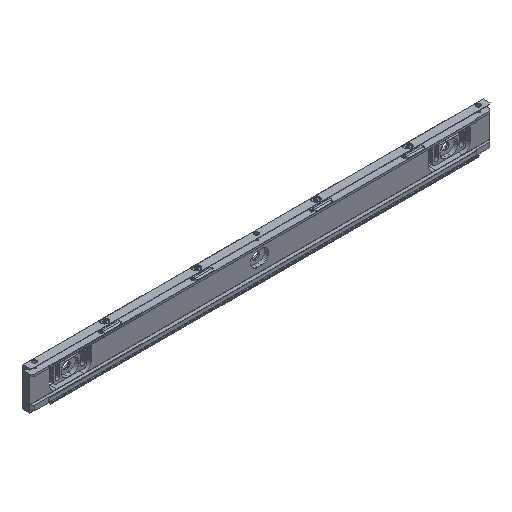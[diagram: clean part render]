
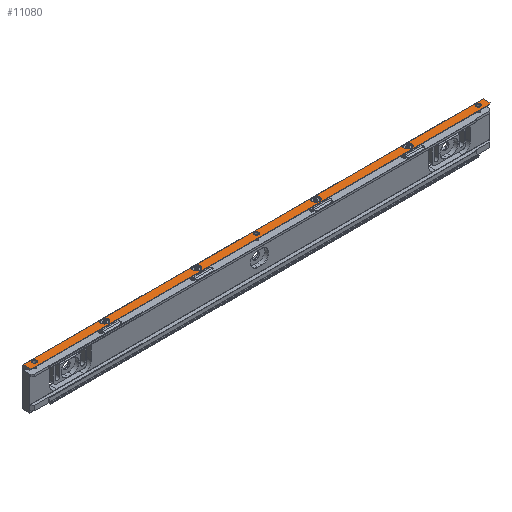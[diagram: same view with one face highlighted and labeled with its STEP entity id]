
A CAD part, isometric view. The second image highlights one B-rep face of the part: STEP entity #11080.
In plain terms, the highlighted planar face has unit normal (0, 0, 1).
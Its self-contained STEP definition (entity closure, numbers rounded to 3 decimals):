
#8380=CARTESIAN_POINT('',(-17.266,8.917,
83.483));
#8390=VERTEX_POINT('',#8380);
#8750=CARTESIAN_POINT('',(-12.734,8.917,
83.483));
#8760=VERTEX_POINT('',#8750);
#8790=CARTESIAN_POINT('',(-15.,6.25,
83.483));
#8800=DIRECTION('',(0.,0.,-1.));
#8810=DIRECTION('',(-1.,0.,0.));
#8820=AXIS2_PLACEMENT_3D('',#8790,#8800,#8810);
#8830=CIRCLE('',#8820,3.5);
#8840=EDGE_CURVE('',#8760,#8390,#8830,.T.);
#9090=CARTESIAN_POINT('',(92.734,8.917,
83.483));
#9100=VERTEX_POINT('',#9090);
#9460=CARTESIAN_POINT('',(97.266,8.917,
83.483));
#9470=VERTEX_POINT('',#9460);
#9500=CARTESIAN_POINT('',(95.,6.25,
83.483));
#9510=DIRECTION('',(0.,0.,-1.));
#9520=DIRECTION('',(-1.,0.,0.));
#9530=AXIS2_PLACEMENT_3D('',#9500,#9510,#9520);
#9540=CIRCLE('',#9530,3.5);
#9550=EDGE_CURVE('',#9470,#9100,#9540,.T.);
#9600=CARTESIAN_POINT('',(-5.,10.,
83.483));
#9610=DIRECTION('',(0.,0.,1.));
#9620=DIRECTION('',(0.,1.,0.));
#9630=AXIS2_PLACEMENT_3D('',#9600,#9610,#9620);
#9640=PLANE('',#9630);
#9650=CARTESIAN_POINT('',(40.,6.,
83.483));
#9660=DIRECTION('',(0.,0.,1.));
#9670=DIRECTION('',(0.,1.,0.));
#9680=AXIS2_PLACEMENT_3D('',#9650,#9660,#9670);
#9690=CIRCLE('',#9680,1.9);
#9700=CARTESIAN_POINT('',(41.9,6.,
83.483));
#9710=VERTEX_POINT('',#9700);
#9720=CARTESIAN_POINT('',(38.1,6.,
83.483));
#9730=VERTEX_POINT('',#9720);
#9740=EDGE_CURVE('',#9710,#9730,#9690,.T.);
#9750=ORIENTED_EDGE('',*,*,#9740,.F.);
#9760=EDGE_CURVE('',#9730,#9710,#9690,.T.);
#9770=ORIENTED_EDGE('',*,*,#9760,.F.);
#9780=EDGE_LOOP('',(#9770,#9750));
#9790=FACE_BOUND('',#9780,.T.);
#9800=CARTESIAN_POINT('',(180.,6.25,
83.483));
#9810=DIRECTION('',(0.,0.,-1.));
#9820=DIRECTION('',(-1.,0.,0.));
#9830=AXIS2_PLACEMENT_3D('',#9800,#9810,#9820);
#9840=CIRCLE('',#9830,3.5);
#9850=CARTESIAN_POINT('',(182.266,8.917,
83.483));
#9860=VERTEX_POINT('',#9850);
#9870=CARTESIAN_POINT('',(177.734,8.917,
83.483));
#9880=VERTEX_POINT('',#9870);
#9890=EDGE_CURVE('',#9860,#9880,#9840,.T.);
#9900=ORIENTED_EDGE('',*,*,#9890,.T.);
#9910=CARTESIAN_POINT('',(260.,8.917,83.483));
#9920=DIRECTION('',(-1.,0.,0.));
#9930=VECTOR('',#9920,1.);
#9940=LINE('',#9910,#9930);
#9950=CARTESIAN_POINT('',(252.5,8.917,83.483));
#9960=VERTEX_POINT('',#9950);
#9970=EDGE_CURVE('',#9960,#9860,#9940,.T.);
#9980=ORIENTED_EDGE('',*,*,#9970,.T.);
#9990=CARTESIAN_POINT('',(252.5,8.463,83.483));
#10000=DIRECTION('',(0.,1.,0.));
#10010=VECTOR('',#10000,1.);
#10020=LINE('',#9990,#10010);
#10030=CARTESIAN_POINT('',(252.5,2.75,83.483));
#10040=VERTEX_POINT('',#10030);
#10050=EDGE_CURVE('',#10040,#9960,#10020,.T.);
#10060=ORIENTED_EDGE('',*,*,#10050,.T.);
#10070=CARTESIAN_POINT('',(258.212,8.462,
83.483));
#10080=DIRECTION('',(0.707,0.707,
0.));
#10090=VECTOR('',#10080,1.);
#10100=LINE('',#10070,#10090);
#10110=CARTESIAN_POINT('',(251.2,1.45,
83.483));
#10120=VERTEX_POINT('',#10110);
#10130=EDGE_CURVE('',#10120,#10040,#10100,.T.);
#10140=ORIENTED_EDGE('',*,*,#10130,.T.);
#10150=CARTESIAN_POINT('',(-80.,1.45,
83.483));
#10160=DIRECTION('',(1.,0.,0.));
#10170=VECTOR('',#10160,1.);
#10180=LINE('',#10150,#10170);
#10190=CARTESIAN_POINT('',(-171.2,1.45,
83.483));
#10200=VERTEX_POINT('',#10190);
#10210=EDGE_CURVE('',#10200,#10120,#10180,.T.);
#10220=ORIENTED_EDGE('',*,*,#10210,.T.);
#10230=CARTESIAN_POINT('',(-178.212,8.462,
83.483));
#10240=DIRECTION('',(-0.707,0.707,
0.));
#10250=VECTOR('',#10240,1.);
#10260=LINE('',#10230,#10250);
#10270=CARTESIAN_POINT('',(-172.5,2.75,
83.483));
#10280=VERTEX_POINT('',#10270);
#10290=EDGE_CURVE('',#10200,#10280,#10260,.T.);
#10300=ORIENTED_EDGE('',*,*,#10290,.F.);
#10310=CARTESIAN_POINT('',(-172.5,8.463,
83.483));
#10320=DIRECTION('',(0.,1.,0.));
#10330=VECTOR('',#10320,1.);
#10340=LINE('',#10310,#10330);
#10350=CARTESIAN_POINT('',(-172.5,8.917,
83.483));
#10360=VERTEX_POINT('',#10350);
#10370=EDGE_CURVE('',#10280,#10360,#10340,.T.);
#10380=ORIENTED_EDGE('',*,*,#10370,.F.);
#10390=CARTESIAN_POINT('',(-30.,8.917,
83.483));
#10400=DIRECTION('',(-1.,0.,0.));
#10410=VECTOR('',#10400,1.);
#10420=LINE('',#10390,#10410);
#10430=CARTESIAN_POINT('',(-102.266,8.917,
83.483));
#10440=VERTEX_POINT('',#10430);
#10450=EDGE_CURVE('',#10440,#10360,#10420,.T.);
#10460=ORIENTED_EDGE('',*,*,#10450,.T.);
#10470=CARTESIAN_POINT('',(-100.,6.25,
83.483));
#10480=DIRECTION('',(0.,0.,-1.));
#10490=DIRECTION('',(-1.,0.,0.));
#10500=AXIS2_PLACEMENT_3D('',#10470,#10480,#10490);
#10510=CIRCLE('',#10500,3.5);
#10520=CARTESIAN_POINT('',(-97.734,8.917,
83.483));
#10530=VERTEX_POINT('',#10520);
#10540=EDGE_CURVE('',#10530,#10440,#10510,.T.);
#10550=ORIENTED_EDGE('',*,*,#10540,.T.);
#10560=CARTESIAN_POINT('',(5.,8.917,
83.483));
#10570=DIRECTION('',(-1.,0.,0.));
#10580=VECTOR('',#10570,1.);
#10590=LINE('',#10560,#10580);
#10600=EDGE_CURVE('',#8390,#10530,#10590,.T.);
#10610=ORIENTED_EDGE('',*,*,#10600,.T.);
#10620=ORIENTED_EDGE('',*,*,#8840,.T.);
#10630=CARTESIAN_POINT('',(65.,8.917,
83.483));
#10640=DIRECTION('',(-1.,0.,0.));
#10650=VECTOR('',#10640,1.);
#10660=LINE('',#10630,#10650);
#10670=EDGE_CURVE('',#9100,#8760,#10660,.T.);
#10680=ORIENTED_EDGE('',*,*,#10670,.T.);
#10690=ORIENTED_EDGE('',*,*,#9550,.T.);
#10700=CARTESIAN_POINT('',(175.,8.917,83.483));
#10710=DIRECTION('',(-1.,0.,0.));
#10720=VECTOR('',#10710,1.);
#10730=LINE('',#10700,#10720);
#10740=EDGE_CURVE('',#9880,#9470,#10730,.T.);
#10750=ORIENTED_EDGE('',*,*,#10740,.T.);
#10760=EDGE_LOOP('',(#10750,#10690,#10680,#10620,#10610,#10550,#10460,
#10380,#10300,#10220,#10140,#10060,#9980,#9900));
#10770=FACE_OUTER_BOUND('',#10760,.T.);
#10780=CARTESIAN_POINT('',(-165.,6.,
83.483));
#10790=DIRECTION('',(0.,0.,1.));
#10800=DIRECTION('',(0.,1.,0.));
#10810=AXIS2_PLACEMENT_3D('',#10780,#10790,#10800);
#10820=CIRCLE('',#10810,1.9);
#10830=CARTESIAN_POINT('',(-163.1,6.,
83.483));
#10840=VERTEX_POINT('',#10830);
#10850=CARTESIAN_POINT('',(-166.9,6.,
83.483));
#10860=VERTEX_POINT('',#10850);
#10870=EDGE_CURVE('',#10840,#10860,#10820,.T.);
#10880=ORIENTED_EDGE('',*,*,#10870,.F.);
#10890=EDGE_CURVE('',#10860,#10840,#10820,.T.);
#10900=ORIENTED_EDGE('',*,*,#10890,.F.);
#10910=EDGE_LOOP('',(#10900,#10880));
#10920=FACE_BOUND('',#10910,.T.);
#10930=CARTESIAN_POINT('',(245.,6.,83.483));
#10940=DIRECTION('',(0.,0.,1.));
#10950=DIRECTION('',(0.,1.,0.));
#10960=AXIS2_PLACEMENT_3D('',#10930,#10940,#10950);
#10970=CIRCLE('',#10960,1.9);
#10980=CARTESIAN_POINT('',(246.9,6.,83.483));
#10990=VERTEX_POINT('',#10980);
#11000=CARTESIAN_POINT('',(243.1,6.,83.483));
#11010=VERTEX_POINT('',#11000);
#11020=EDGE_CURVE('',#10990,#11010,#10970,.T.);
#11030=ORIENTED_EDGE('',*,*,#11020,.F.);
#11040=EDGE_CURVE('',#11010,#10990,#10970,.T.);
#11050=ORIENTED_EDGE('',*,*,#11040,.F.);
#11060=EDGE_LOOP('',(#11050,#11030));
#11070=FACE_BOUND('',#11060,.T.);
#11080=ADVANCED_FACE('',(#9790,#10770,#10920,#11070),#9640,.T.);
